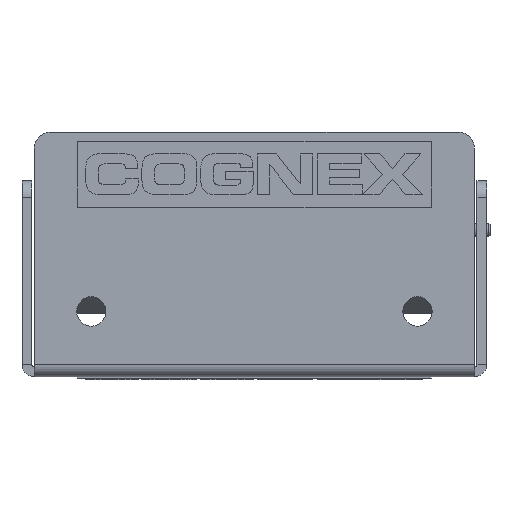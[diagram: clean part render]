
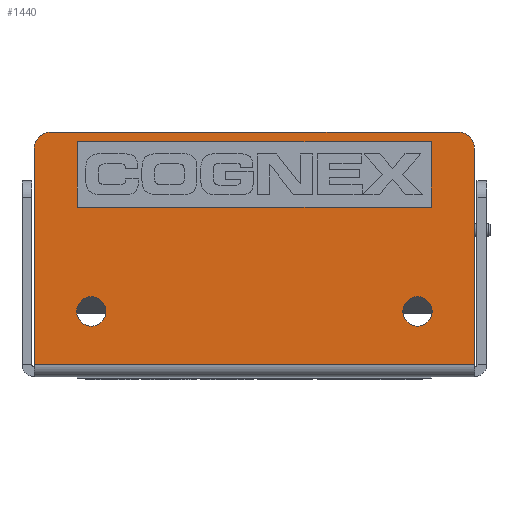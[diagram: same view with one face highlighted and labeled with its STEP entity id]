
A CAD part, left-side view. The second image highlights one B-rep face of the part: STEP entity #1440.
In plain terms, the highlighted planar face has unit normal (-1, 0, 0).
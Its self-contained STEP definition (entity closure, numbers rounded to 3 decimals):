
#2 = EDGE_CURVE ( 'NONE', #5006, #4351, #538, .T. ) ;
#26 = ORIENTED_EDGE ( 'NONE', *, *, #2, .F. ) ;
#353 = CARTESIAN_POINT ( 'NONE',  ( -53.737, -50., 17. ) ) ;
#417 = CIRCLE ( 'NONE', #2036, 4.5 ) ;
#504 = DIRECTION ( 'NONE',  ( 0., 0., 1. ) ) ;
#538 = LINE ( 'NONE', #1737, #2625 ) ;
#714 = CARTESIAN_POINT ( 'NONE',  ( -53.737, 50., 21.5 ) ) ;
#780 = EDGE_LOOP ( 'NONE', ( #9423, #7757, #2237, #4889, #7854, #26 ) ) ;
#854 = DIRECTION ( 'NONE',  ( 0., 0., 1. ) ) ;
#935 = CARTESIAN_POINT ( 'NONE',  ( -53.737, -67.5, 67. ) ) ;
#939 = LINE ( 'NONE', #4044, #9619 ) ;
#1005 = CARTESIAN_POINT ( 'NONE',  ( -53.737, 67.5, 0. ) ) ;
#1056 = LINE ( 'NONE', #1005, #9120 ) ;
#1087 = EDGE_CURVE ( 'NONE', #5006, #9139, #8936, .T. ) ;
#1440 = ADVANCED_FACE ( 'NONE', ( #3697, #4559, #6909 ), #1515, .F. ) ;
#1515 = PLANE ( 'NONE',  #7735 ) ;
#1563 = VERTEX_POINT ( 'NONE', #2006 ) ;
#1622 = CARTESIAN_POINT ( 'NONE',  ( -53.737, 50., 17. ) ) ;
#1737 = CARTESIAN_POINT ( 'NONE',  ( -53.737, 67.5, 0.737 ) ) ;
#1771 = EDGE_CURVE ( 'NONE', #9139, #3661, #5439, .T. ) ;
#1837 = CARTESIAN_POINT ( 'NONE',  ( -53.737, -62.5, 67. ) ) ;
#1892 = DIRECTION ( 'NONE',  ( -1., 0., 0. ) ) ;
#1954 = VERTEX_POINT ( 'NONE', #8991 ) ;
#1978 = CARTESIAN_POINT ( 'NONE',  ( -53.737, -67.5, 0. ) ) ;
#2006 = CARTESIAN_POINT ( 'NONE',  ( -53.737, -50., 12.5 ) ) ;
#2036 = AXIS2_PLACEMENT_3D ( 'NONE', #353, #4120, #5692 ) ;
#2237 = ORIENTED_EDGE ( 'NONE', *, *, #6482, .T. ) ;
#2516 = ORIENTED_EDGE ( 'NONE', *, *, #9610, .F. ) ;
#2625 = VECTOR ( 'NONE', #7173, 1000. ) ;
#2680 = AXIS2_PLACEMENT_3D ( 'NONE', #1837, #3975, #7180 ) ;
#2865 = EDGE_CURVE ( 'NONE', #1563, #9387, #417, .T. ) ;
#2970 = CIRCLE ( 'NONE', #6061, 4.5 ) ;
#3271 = EDGE_CURVE ( 'NONE', #1954, #4351, #1056, .T. ) ;
#3661 = VERTEX_POINT ( 'NONE', #8329 ) ;
#3689 = CARTESIAN_POINT ( 'NONE',  ( -53.737, 50., 12.5 ) ) ;
#3697 = FACE_BOUND ( 'NONE', #3989, .T. ) ;
#3727 = VECTOR ( 'NONE', #504, 1000. ) ;
#3746 = DIRECTION ( 'NONE',  ( 0., 0., -1. ) ) ;
#3916 = ORIENTED_EDGE ( 'NONE', *, *, #7326, .F. ) ;
#3975 = DIRECTION ( 'NONE',  ( -1., 0., 0. ) ) ;
#3989 = EDGE_LOOP ( 'NONE', ( #2516, #5018 ) ) ;
#4044 = CARTESIAN_POINT ( 'NONE',  ( -53.737, 0., 72. ) ) ;
#4079 = DIRECTION ( 'NONE',  ( 0., 0., 1. ) ) ;
#4120 = DIRECTION ( 'NONE',  ( -1., 0., 0. ) ) ;
#4351 = VERTEX_POINT ( 'NONE', #9333 ) ;
#4559 = FACE_BOUND ( 'NONE', #6989, .T. ) ;
#4768 = AXIS2_PLACEMENT_3D ( 'NONE', #5686, #4927, #6548 ) ;
#4848 = CARTESIAN_POINT ( 'NONE',  ( -53.737, 50., 17. ) ) ;
#4889 = ORIENTED_EDGE ( 'NONE', *, *, #9265, .T. ) ;
#4927 = DIRECTION ( 'NONE',  ( -1., 0., 0. ) ) ;
#5006 = VERTEX_POINT ( 'NONE', #8513 ) ;
#5018 = ORIENTED_EDGE ( 'NONE', *, *, #6980, .F. ) ;
#5237 = DIRECTION ( 'NONE',  ( -1., 0., 0. ) ) ;
#5439 = CIRCLE ( 'NONE', #2680, 5. ) ;
#5686 = CARTESIAN_POINT ( 'NONE',  ( -53.737, -50., 17. ) ) ;
#5692 = DIRECTION ( 'NONE',  ( 0., 0., 1. ) ) ;
#5741 = CARTESIAN_POINT ( 'NONE',  ( -53.737, -50., 21.5 ) ) ;
#5775 = AXIS2_PLACEMENT_3D ( 'NONE', #8499, #5237, #7583 ) ;
#5947 = AXIS2_PLACEMENT_3D ( 'NONE', #1622, #7934, #854 ) ;
#6061 = AXIS2_PLACEMENT_3D ( 'NONE', #4848, #1892, #4079 ) ;
#6085 = CARTESIAN_POINT ( 'NONE',  ( -53.737, 0., 0. ) ) ;
#6381 = VERTEX_POINT ( 'NONE', #3689 ) ;
#6456 = DIRECTION ( 'NONE',  ( 0., 0., -1. ) ) ;
#6482 = EDGE_CURVE ( 'NONE', #3661, #7324, #939, .T. ) ;
#6548 = DIRECTION ( 'NONE',  ( 0., 0., 1. ) ) ;
#6909 = FACE_OUTER_BOUND ( 'NONE', #780, .T. ) ;
#6976 = CARTESIAN_POINT ( 'NONE',  ( -53.737, 62.5, 72. ) ) ;
#6980 = EDGE_CURVE ( 'NONE', #6381, #7282, #2970, .T. ) ;
#6989 = EDGE_LOOP ( 'NONE', ( #3916, #8503 ) ) ;
#7173 = DIRECTION ( 'NONE',  ( 0., 1., 0. ) ) ;
#7180 = DIRECTION ( 'NONE',  ( 0., 0., -1. ) ) ;
#7282 = VERTEX_POINT ( 'NONE', #714 ) ;
#7324 = VERTEX_POINT ( 'NONE', #6976 ) ;
#7326 = EDGE_CURVE ( 'NONE', #9387, #1563, #9134, .T. ) ;
#7583 = DIRECTION ( 'NONE',  ( 0., 0., -1. ) ) ;
#7735 = AXIS2_PLACEMENT_3D ( 'NONE', #6085, #9837, #3746 ) ;
#7757 = ORIENTED_EDGE ( 'NONE', *, *, #1771, .T. ) ;
#7854 = ORIENTED_EDGE ( 'NONE', *, *, #3271, .T. ) ;
#7934 = DIRECTION ( 'NONE',  ( -1., 0., 0. ) ) ;
#8059 = CIRCLE ( 'NONE', #5947, 4.5 ) ;
#8329 = CARTESIAN_POINT ( 'NONE',  ( -53.737, -62.5, 72. ) ) ;
#8499 = CARTESIAN_POINT ( 'NONE',  ( -53.737, 62.5, 67. ) ) ;
#8503 = ORIENTED_EDGE ( 'NONE', *, *, #2865, .F. ) ;
#8513 = CARTESIAN_POINT ( 'NONE',  ( -53.737, -67.5, 0.737 ) ) ;
#8936 = LINE ( 'NONE', #1978, #3727 ) ;
#8991 = CARTESIAN_POINT ( 'NONE',  ( -53.737, 67.5, 67. ) ) ;
#9120 = VECTOR ( 'NONE', #6456, 1000. ) ;
#9134 = CIRCLE ( 'NONE', #4768, 4.5 ) ;
#9139 = VERTEX_POINT ( 'NONE', #935 ) ;
#9265 = EDGE_CURVE ( 'NONE', #7324, #1954, #9344, .T. ) ;
#9267 = DIRECTION ( 'NONE',  ( 0., 1., 0. ) ) ;
#9333 = CARTESIAN_POINT ( 'NONE',  ( -53.737, 67.5, 0.737 ) ) ;
#9344 = CIRCLE ( 'NONE', #5775, 5. ) ;
#9387 = VERTEX_POINT ( 'NONE', #5741 ) ;
#9423 = ORIENTED_EDGE ( 'NONE', *, *, #1087, .T. ) ;
#9610 = EDGE_CURVE ( 'NONE', #7282, #6381, #8059, .T. ) ;
#9619 = VECTOR ( 'NONE', #9267, 1000. ) ;
#9837 = DIRECTION ( 'NONE',  ( 1., 0., 0. ) ) ;
